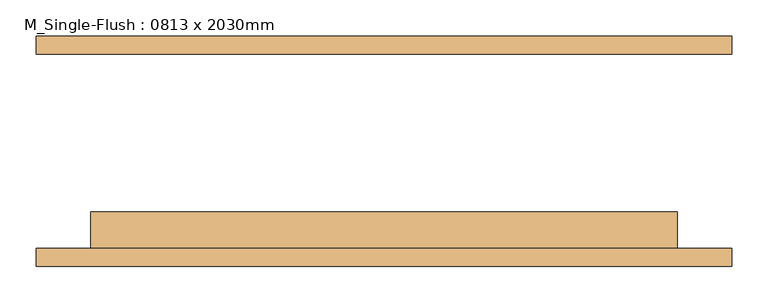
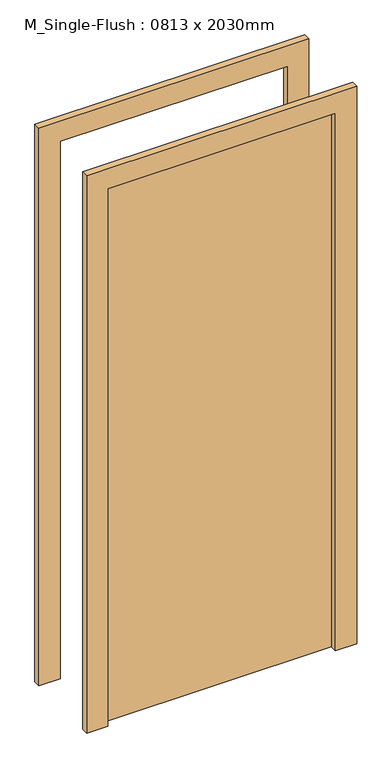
"""IFC4 building model written with IfcOpenShell, lengths in millimetres: door geometry, M_Single-Flush : 0813 x 2030mm."""

from ifc_helpers import new_model, si_unit, frame, origin, origin_with_axes, place, context, project, spatial, polyline, outline, extrude, source, transform, mapped, element, save


def m_single_flush_0813_x_2030mm_5ea07d66(model_context):
    return source(origin(), model_context, "Body", "SweptSolid", [
        extrude(outline(polyline([(2106.0, -482.5), (0.0, -482.5), (0.0, -406.5), (2030.0, -406.5), (2030.0, 406.5), (0.0, 406.5), (0.0, 482.5), (2106.0, 482.5), (2106.0, -482.5)])), frame((0.0, -160.0, 0.0), z_axis=(0.0, 1.0, 0.0), x_axis=(0.0, 0.0, 1.0)), (0.0, 0.0, 1.0), 25.0),
        extrude(outline(polyline([(2106.0, 482.5), (2106.0, -482.5), (0.0, -482.5), (0.0, -406.5), (2030.0, -406.5), (2030.0, 406.5), (0.0, 406.5), (0.0, 482.5), (2106.0, 482.5)])), frame((0.0, 135.0, 0.0), z_axis=(0.0, 1.0, 0.0), x_axis=(0.0, 0.0, 1.0)), (0.0, 0.0, 1.0), 25.0),
        extrude(outline(polyline([(406.5, -84.0), (406.5, -135.0), (-406.5, -135.0), (-406.5, -84.0), (406.5, -84.0)])), origin_with_axes(), (0.0, 0.0, 1.0), 2030.0),
    ])


if __name__ == "__main__":
    model = new_model("IFC4")
    model_context = context("Model", 3, world=origin())
    ifc_project = project(units=[si_unit("LENGTHUNIT", "METRE", prefix="MILLI")], contexts=[model_context])
    site = spatial("IfcSite", under=ifc_project)
    building = spatial("IfcBuilding", under=site)
    placement = place(None, origin())
    m_single_flush_0813_x_2030mm_shape = m_single_flush_0813_x_2030mm_5ea07d66(model_context)
    element("IfcDoor", 1, ObjectType="M_Single-Flush : 0813 x 2030mm", at=placement, inside=building, context=model_context, shape_type="MappedRepresentation", body=[
        mapped(m_single_flush_0813_x_2030mm_shape, transform((0.0, 0.0, 0.0), x_axis=(1.0, 0.0, 0.0), y_axis=(0.0, 1.0, 0.0), z_axis=(0.0, 0.0, 1.0))),
    ])
    save(model, "model.ifc")
